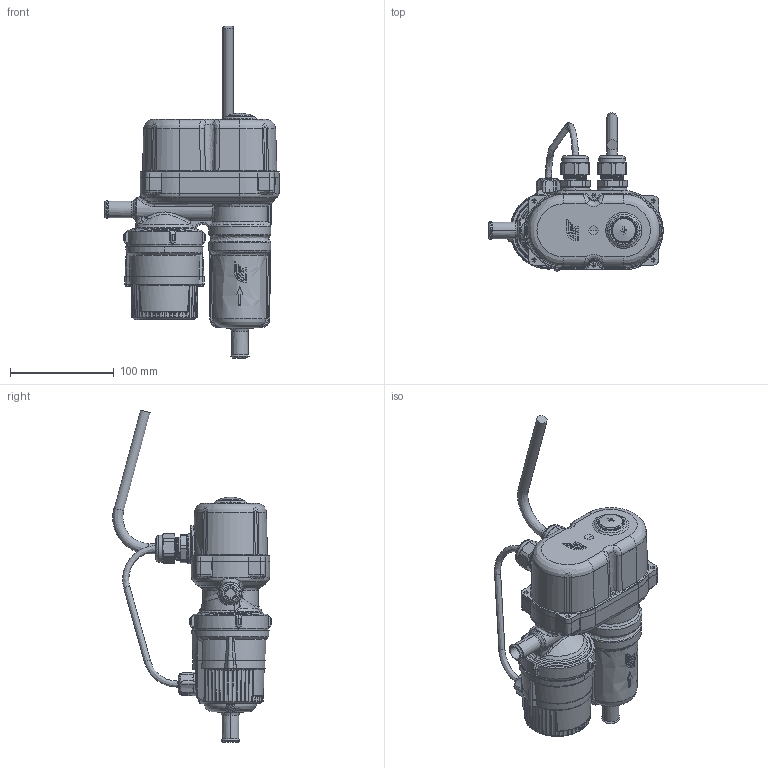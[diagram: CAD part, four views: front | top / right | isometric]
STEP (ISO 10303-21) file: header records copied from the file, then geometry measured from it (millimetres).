
FILE_DESCRIPTION(('STEP AP203'),'2;1');
FILE_NAME('Thermocar corps+pompe_Rev_a.stp','2014-12-12T14:41:45',(''),(''),'2012.1.115','THINKDESIGN','');
FILE_SCHEMA(('CONFIG_CONTROL_DESIGN'));
Bounding box: 167.99 x 152.64 x 319.45 mm (x, y, z)
Volume: 653827.8 mm3; surface area: 265235.2 mm2
Topology: 18 solids, 18 shells, 3474 faces, 10538 edges, 7531 vertices
Faces by surface type: bspline 2372, plane 615, cylinder 487
Full cylindrical faces by diameter (mm): 3.3 x9, 6 x3, 10 x2, 10.4 x1, 11 x1, 12 x2, 14.4 x2, 15 x2, 18 x4, 18.2 x2, 18.5 x8, 19.8 x18, 21.3 x14, 22.4 x14, 25.8 x2, 26.2 x2, 29 x2, 45 x1
Entity records: 291166 total; most frequent: CARTESIAN_POINT 222426, ORIENTED_EDGE 14520, DIRECTION 10297, EDGE_CURVE 7260, VERTEX_POINT 4404, B_SPLINE_CURVE_WITH_KNOTS 4023, AXIS2_PLACEMENT_3D 3927, EDGE_LOOP 3100
